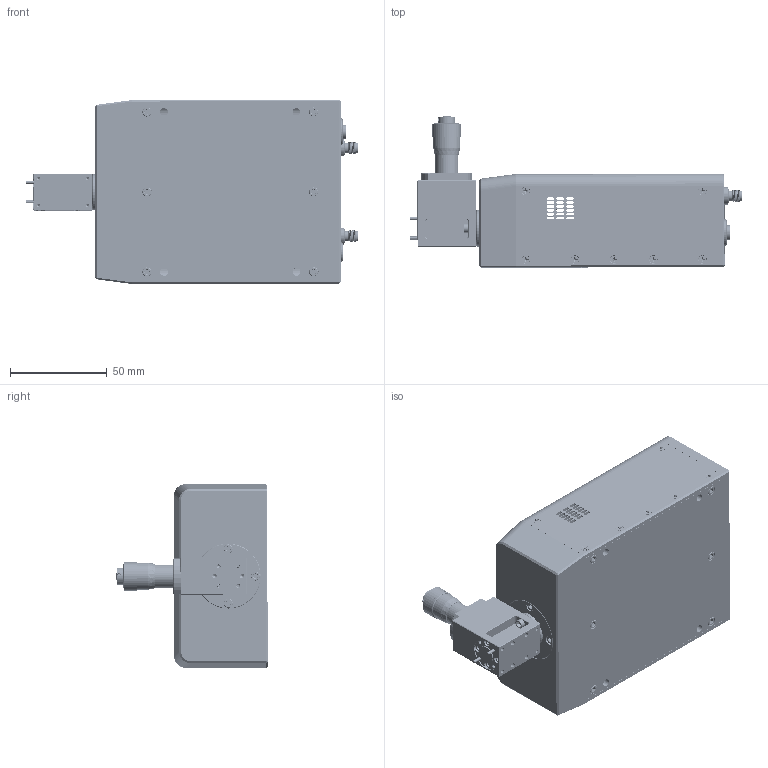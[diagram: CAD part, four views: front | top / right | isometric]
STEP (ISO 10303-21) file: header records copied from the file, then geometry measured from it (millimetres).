
FILE_DESCRIPTION (( 'STEP AP214' ), '1' );
FILE_NAME ('TO-R03-A Mountable.STEP', '2024-11-01T23:37:43', ( '' ), ( '' ), 'SwSTEP 2.0', 'SolidWorks 2021', '' );
FILE_SCHEMA (( 'AUTOMOTIVE_DESIGN' ));
Length unit declared in the file: inch
Products named in the file (1): TO-R03-A Mountable
Bounding box: 171.94 x 78.28 x 95.36 mm (x, y, z)
Volume: 231244.2 mm3; surface area: 125699.7 mm2
Topology: 62 solids, 62 shells, 4370 faces, 11393 edges, 7188 vertices
Faces by surface type: cylinder 1922, plane 1279, cone 873, bspline 263, sphere 21, torus 12
Entity records: 270597 total; most frequent: CARTESIAN_POINT 115076, ORIENTED_EDGE 22444, DIRECTION 18268, EDGE_CURVE 11222, VERTEX_POINT 7182, AXIS2_PLACEMENT_3D 6943, EDGE_LOOP 4822, DIMENSIONAL_EXPONENTS 4434
